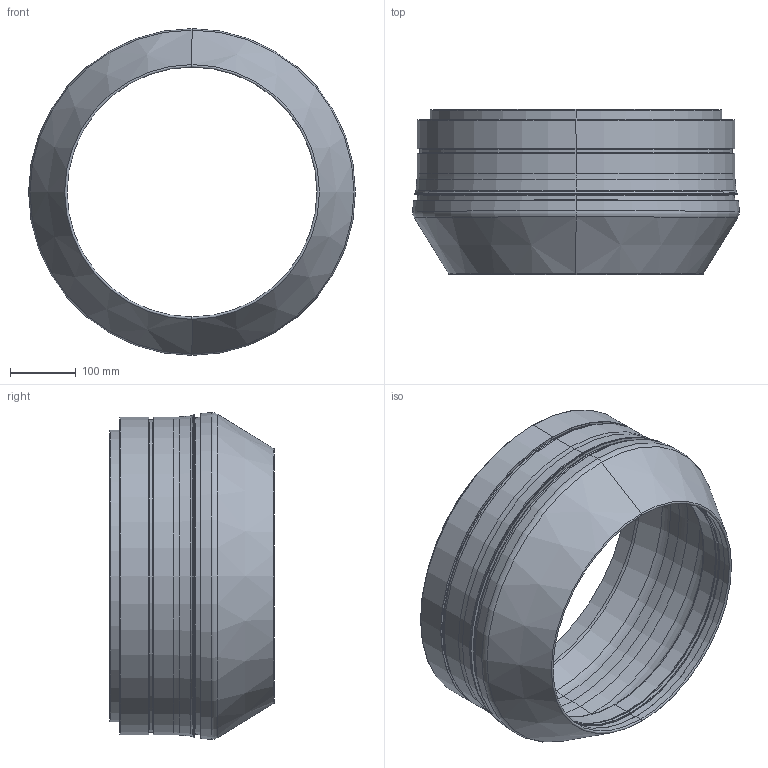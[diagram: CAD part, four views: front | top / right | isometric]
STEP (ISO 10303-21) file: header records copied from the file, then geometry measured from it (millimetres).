
FILE_DESCRIPTION(('CATIA V5 STEP Exchange','CAx-IF Rec.Pracs.--- Composite Materials ---3.4---2017-06-13'),'2;1');
FILE_NAME('C:\Users\PM610867\AppData\Local\ST-WORK_R32_PROD\Liasse-PDF\IEM_PEPSI_CEG_DEF_K_1229_217-VIROLE_INTER_TUBE_INTERM_COTE_ELECTRODE_MOBILE-A.stp','2025-03-31T12:19:50+00:00',('none'),('none'),'CATIA Version 5-6 Release 2022 SP2','CATIA V5 STEP AP203 v2','none');
FILE_SCHEMA(('CONFIG_CONTROL_DESIGN'));
Length unit declared in the file: millimetre
Products named in the file (1): IEM PEPSI CEG DEF K 1229 217
Bounding box: 495.2 x 249.45 x 495.2 mm (x, y, z)
Volume: 5361620.3 mm3; surface area: 881992.1 mm2
Topology: 1 solids, 1 shells, 374 faces, 880 edges, 448 vertices
Faces by surface type: cone 156, cylinder 154, torus 56, plane 8
Entity records: 8391 total; most frequent: ORIENTED_EDGE 1496, CARTESIAN_POINT 1385, DIRECTION 1124, EDGE_CURVE 748, AXIS2_PLACEMENT_3D 627, EDGE_LOOP 448, VERTEX_POINT 448, CIRCLE 438
